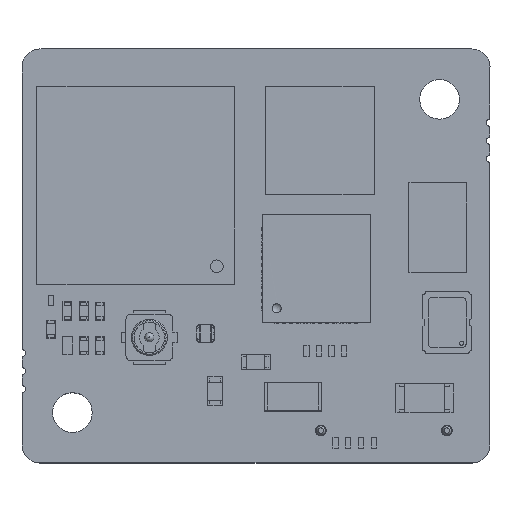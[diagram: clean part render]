
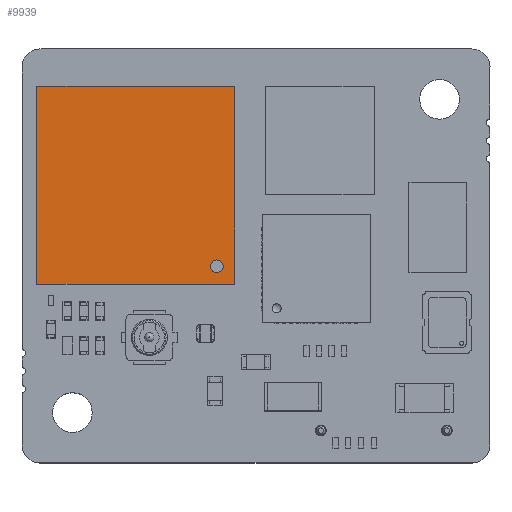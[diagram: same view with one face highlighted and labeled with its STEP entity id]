
A CAD part, top view. The second image highlights one B-rep face of the part: STEP entity #9939.
In plain terms, the highlighted planar face has unit normal (0, 0, 1).
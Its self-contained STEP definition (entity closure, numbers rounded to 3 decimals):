
#9939 = ADVANCED_FACE( '', ( #17469, #17470 ), #17471, .T. );
#17469 = FACE_BOUND( '', #25000, .T. );
#17470 = FACE_OUTER_BOUND( '', #25001, .T. );
#17471 = PLANE( '', #25002 );
#25000 = EDGE_LOOP( '', ( #35488 ) );
#25001 = EDGE_LOOP( '', ( #35489, #35490, #35491, #35492 ) );
#25002 = AXIS2_PLACEMENT_3D( '', #35493, #35494, #35495 );
#35488 = ORIENTED_EDGE( '', *, *, #42039, .F. );
#35489 = ORIENTED_EDGE( '', *, *, #38959, .T. );
#35490 = ORIENTED_EDGE( '', *, *, #40636, .T. );
#35491 = ORIENTED_EDGE( '', *, *, #42040, .T. );
#35492 = ORIENTED_EDGE( '', *, *, #42041, .T. );
#35493 = CARTESIAN_POINT( '', ( 0., 0., 1.2 ) );
#35494 = DIRECTION( '', ( 0., 0., 1. ) );
#35495 = DIRECTION( '', ( 1., 0., 0. ) );
#38959 = EDGE_CURVE( '', #43442, #43440, #43443, .T. );
#40636 = EDGE_CURVE( '', #43440, #46128, #46130, .T. );
#42039 = EDGE_CURVE( '', #47959, #47959, #47960, .T. );
#42040 = EDGE_CURVE( '', #46128, #47961, #47962, .T. );
#42041 = EDGE_CURVE( '', #47961, #43442, #47963, .T. );
#43440 = VERTEX_POINT( '', #49773 );
#43442 = VERTEX_POINT( '', #49776 );
#43443 = LINE( '', #49777, #49778 );
#46128 = VERTEX_POINT( '', #53706 );
#46130 = LINE( '', #53709, #53710 );
#47959 = VERTEX_POINT( '', #56450 );
#47960 = CIRCLE( '', #56451, 0.35 );
#47961 = VERTEX_POINT( '', #56452 );
#47962 = LINE( '', #56453, #56454 );
#47963 = LINE( '', #56455, #56456 );
#49773 = CARTESIAN_POINT( '', ( -54.294, -17.552, 1.2 ) );
#49776 = CARTESIAN_POINT( '', ( -54.294, -6.552, 1.2 ) );
#49777 = CARTESIAN_POINT( '', ( -54.294, -6.552, 1.2 ) );
#49778 = VECTOR( '', #57740, 1000. );
#53706 = CARTESIAN_POINT( '', ( -43.294, -17.552, 1.2 ) );
#53709 = CARTESIAN_POINT( '', ( -54.294, -17.552, 1.2 ) );
#53710 = VECTOR( '', #59405, 1000. );
#56450 = CARTESIAN_POINT( '', ( -52.944, -7.552, 1.2 ) );
#56451 = AXIS2_PLACEMENT_3D( '', #60568, #60569, #60570 );
#56452 = CARTESIAN_POINT( '', ( -43.294, -6.552, 1.2 ) );
#56453 = CARTESIAN_POINT( '', ( -43.294, -6.552, 1.2 ) );
#56454 = VECTOR( '', #60571, 1000. );
#56455 = CARTESIAN_POINT( '', ( -54.294, -6.552, 1.2 ) );
#56456 = VECTOR( '', #60572, 1000. );
#57740 = DIRECTION( '', ( 0., -1., 0. ) );
#59405 = DIRECTION( '', ( 1., 0., 0. ) );
#60568 = CARTESIAN_POINT( '', ( -53.294, -7.552, 1.2 ) );
#60569 = DIRECTION( '', ( 0., 0., 1. ) );
#60570 = DIRECTION( '', ( 1., 0., 0. ) );
#60571 = DIRECTION( '', ( 0., 1., 0. ) );
#60572 = DIRECTION( '', ( -1., 0., 0. ) );
